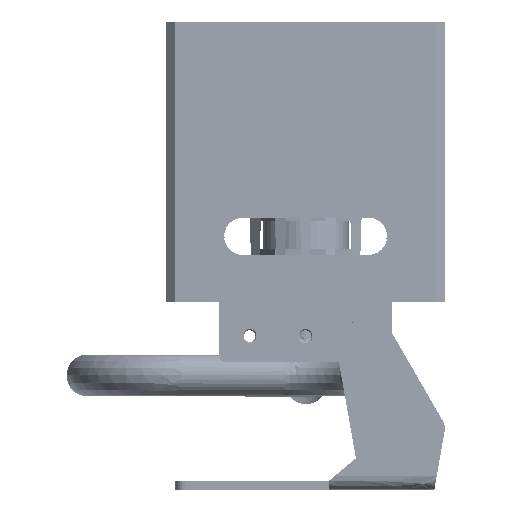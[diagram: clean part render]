
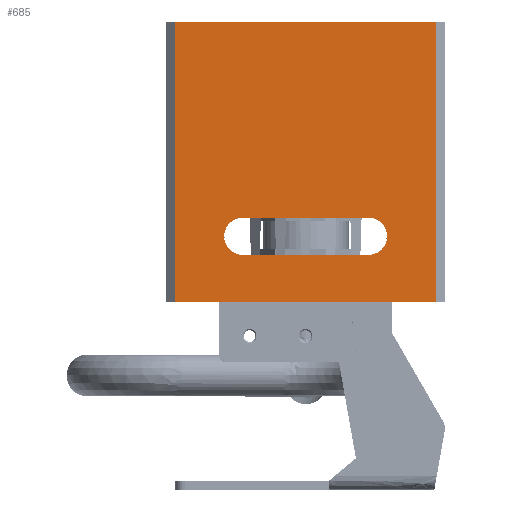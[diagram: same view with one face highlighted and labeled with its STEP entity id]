
A CAD part, left-side view. The second image highlights one B-rep face of the part: STEP entity #685.
In plain terms, the highlighted planar face has unit normal (-1, 0, 0).
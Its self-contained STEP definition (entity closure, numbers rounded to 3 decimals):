
#100=FACE_BOUND('',#2299,.T.);
#685=ADVANCED_FACE('',(#1461,#100),#12917,.T.);
#1461=FACE_OUTER_BOUND('',#2298,.T.);
#2298=EDGE_LOOP('',(#5238,#5239,#5240,#5241));
#2299=EDGE_LOOP('',(#5242,#5243,#5244,#5245));
#5238=ORIENTED_EDGE('',*,*,#8057,.T.);
#5239=ORIENTED_EDGE('',*,*,#8053,.F.);
#5240=ORIENTED_EDGE('',*,*,#8056,.T.);
#5241=ORIENTED_EDGE('',*,*,#8052,.F.);
#5242=ORIENTED_EDGE('',*,*,#8055,.T.);
#5243=ORIENTED_EDGE('',*,*,#8050,.T.);
#5244=ORIENTED_EDGE('',*,*,#8054,.T.);
#5245=ORIENTED_EDGE('',*,*,#8051,.T.);
#8050=EDGE_CURVE('',#11886,#11887,#9293,.T.);
#8051=EDGE_CURVE('',#11888,#11889,#9294,.T.);
#8052=EDGE_CURVE('',#11890,#11891,#10482,.T.);
#8053=EDGE_CURVE('',#11892,#11893,#10483,.T.);
#8054=EDGE_CURVE('',#11887,#11888,#10484,.T.);
#8055=EDGE_CURVE('',#11889,#11886,#10485,.T.);
#8056=EDGE_CURVE('',#11892,#11891,#10486,.T.);
#8057=EDGE_CURVE('',#11890,#11893,#10487,.T.);
#9293=(
BOUNDED_CURVE()
B_SPLINE_CURVE(2,(#24839,#24840,#24841,#24842,#24843),.UNSPECIFIED.,.F.,
 .F.)
B_SPLINE_CURVE_WITH_KNOTS((3,2,3),(-12.566,-6.283,
0.),.UNSPECIFIED.)
CURVE()
GEOMETRIC_REPRESENTATION_ITEM()
RATIONAL_B_SPLINE_CURVE((1.,0.707,1.,0.707,1.))
REPRESENTATION_ITEM('')
);
#9294=(
BOUNDED_CURVE()
B_SPLINE_CURVE(2,(#24844,#24845,#24846,#24847,#24848),.UNSPECIFIED.,.F.,
 .F.)
B_SPLINE_CURVE_WITH_KNOTS((3,2,3),(-12.566,-6.283,
0.),.UNSPECIFIED.)
CURVE()
GEOMETRIC_REPRESENTATION_ITEM()
RATIONAL_B_SPLINE_CURVE((1.,0.707,1.,0.707,1.))
REPRESENTATION_ITEM('')
);
#10482=B_SPLINE_CURVE_WITH_KNOTS('',1,(#24849,#24850),.UNSPECIFIED.,.F.,
 .F.,(2,2),(-56.,0.),.UNSPECIFIED.);
#10483=B_SPLINE_CURVE_WITH_KNOTS('',1,(#24851,#24852),.UNSPECIFIED.,.F.,
 .F.,(2,2),(-56.,0.),.UNSPECIFIED.);
#10484=B_SPLINE_CURVE_WITH_KNOTS('',1,(#24853,#24854),.UNSPECIFIED.,.F.,
 .F.,(2,2),(-27.,0.),.UNSPECIFIED.);
#10485=B_SPLINE_CURVE_WITH_KNOTS('',1,(#24855,#24856),.UNSPECIFIED.,.F.,
 .F.,(2,2),(-27.,0.),.UNSPECIFIED.);
#10486=B_SPLINE_CURVE_WITH_KNOTS('',1,(#24857,#24858),.UNSPECIFIED.,.F.,
 .F.,(2,2),(0.,60.),.UNSPECIFIED.);
#10487=B_SPLINE_CURVE_WITH_KNOTS('',1,(#24859,#24860),.UNSPECIFIED.,.F.,
 .F.,(2,2),(0.,60.),.UNSPECIFIED.);
#11886=VERTEX_POINT('',#24777);
#11887=VERTEX_POINT('',#24778);
#11888=VERTEX_POINT('',#24779);
#11889=VERTEX_POINT('',#24780);
#11890=VERTEX_POINT('',#24781);
#11891=VERTEX_POINT('',#24782);
#11892=VERTEX_POINT('',#24783);
#11893=VERTEX_POINT('',#24784);
#12917=PLANE('',#13417);
#13417=AXIS2_PLACEMENT_3D('',#24632,#13833,$);
#13833=DIRECTION('',(-1.,0.,0.));
#24632=CARTESIAN_POINT('',(-489.4,-34.06,-34.057));
#24777=CARTESIAN_POINT('',(-489.4,13.65,-17.448));
#24778=CARTESIAN_POINT('',(-489.4,13.65,-9.448));
#24779=CARTESIAN_POINT('',(-489.4,-13.35,-9.448));
#24780=CARTESIAN_POINT('',(-489.4,-13.35,-17.448));
#24781=CARTESIAN_POINT('',(-489.4,28.15,32.552));
#24782=CARTESIAN_POINT('',(-489.4,-27.85,32.552));
#24783=CARTESIAN_POINT('',(-489.4,-27.85,-27.448));
#24784=CARTESIAN_POINT('',(-489.4,28.15,-27.448));
#24839=CARTESIAN_POINT('',(-489.4,13.65,-17.448));
#24840=CARTESIAN_POINT('',(-489.4,17.65,-17.448));
#24841=CARTESIAN_POINT('',(-489.4,17.65,-13.448));
#24842=CARTESIAN_POINT('',(-489.4,17.65,-9.448));
#24843=CARTESIAN_POINT('',(-489.4,13.65,-9.448));
#24844=CARTESIAN_POINT('',(-489.4,-13.35,-9.448));
#24845=CARTESIAN_POINT('',(-489.4,-17.35,-9.448));
#24846=CARTESIAN_POINT('',(-489.4,-17.35,-13.448));
#24847=CARTESIAN_POINT('',(-489.4,-17.35,-17.448));
#24848=CARTESIAN_POINT('',(-489.4,-13.35,-17.448));
#24849=CARTESIAN_POINT('',(-489.4,28.15,32.552));
#24850=CARTESIAN_POINT('',(-489.4,-27.85,32.552));
#24851=CARTESIAN_POINT('',(-489.4,-27.85,-27.448));
#24852=CARTESIAN_POINT('',(-489.4,28.15,-27.448));
#24853=CARTESIAN_POINT('',(-489.4,13.65,-9.448));
#24854=CARTESIAN_POINT('',(-489.4,-13.35,-9.448));
#24855=CARTESIAN_POINT('',(-489.4,-13.35,-17.448));
#24856=CARTESIAN_POINT('',(-489.4,13.65,-17.448));
#24857=CARTESIAN_POINT('',(-489.4,-27.85,-27.448));
#24858=CARTESIAN_POINT('',(-489.4,-27.85,32.552));
#24859=CARTESIAN_POINT('',(-489.4,28.15,32.552));
#24860=CARTESIAN_POINT('',(-489.4,28.15,-27.448));
